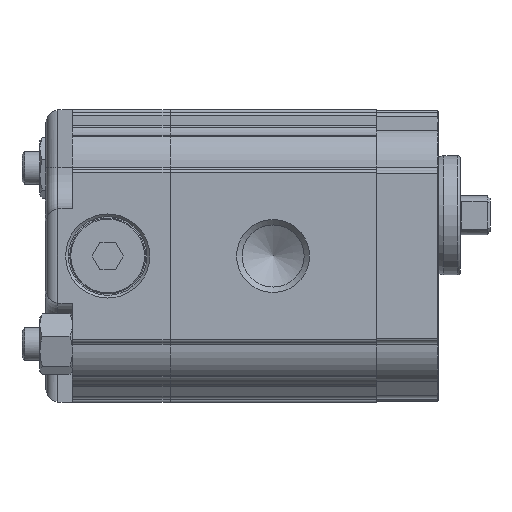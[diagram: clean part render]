
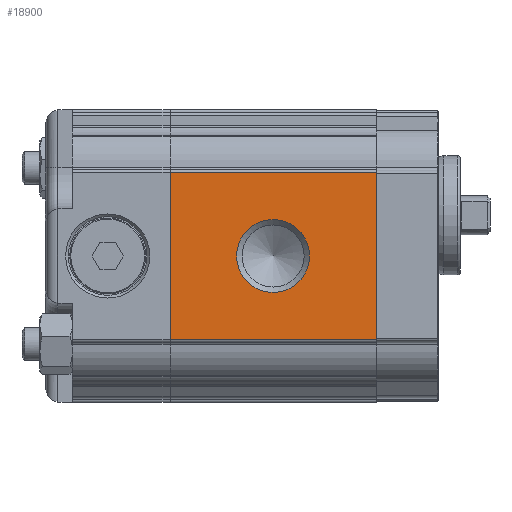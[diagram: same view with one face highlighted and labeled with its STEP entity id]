
A CAD part, left-side view. The second image highlights one B-rep face of the part: STEP entity #18900.
In plain terms, the highlighted planar face has unit normal (-1, 0, 0).
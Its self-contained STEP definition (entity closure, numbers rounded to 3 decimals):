
#1234=LINE('',#27752,#2253);
#1235=LINE('',#27756,#2254);
#1236=LINE('',#27758,#2255);
#1237=LINE('',#27760,#2256);
#2253=VECTOR('',#23065,1000.);
#2254=VECTOR('',#23070,1000.);
#2255=VECTOR('',#23071,1000.);
#2256=VECTOR('',#23072,1000.);
#4794=ORIENTED_EDGE('',*,*,#7641,.T.);
#4795=ORIENTED_EDGE('',*,*,#7642,.F.);
#4796=ORIENTED_EDGE('',*,*,#7640,.F.);
#4797=ORIENTED_EDGE('',*,*,#7643,.T.);
#4798=ORIENTED_EDGE('',*,*,#7644,.T.);
#7640=EDGE_CURVE('',#9209,#9208,#1234,.T.);
#7641=EDGE_CURVE('',#9210,#9210,#10214,.F.);
#7642=EDGE_CURVE('',#9208,#9211,#1235,.T.);
#7643=EDGE_CURVE('',#9209,#9212,#1236,.T.);
#7644=EDGE_CURVE('',#9212,#9211,#1237,.T.);
#9208=VERTEX_POINT('',#27749);
#9209=VERTEX_POINT('',#27751);
#9210=VERTEX_POINT('',#27755);
#9211=VERTEX_POINT('',#27757);
#9212=VERTEX_POINT('',#27759);
#10214=CIRCLE('',#20141,6.723);
#11048=EDGE_LOOP('',(#4794));
#11049=EDGE_LOOP('',(#4795,#4796,#4797,#4798));
#12046=FACE_BOUND('',#11048,.T.);
#12047=FACE_BOUND('',#11049,.T.);
#12716=PLANE('',#20140);
#18900=ADVANCED_FACE('',(#12046,#12047),#12716,.T.);
#20140=AXIS2_PLACEMENT_3D('',#27753,#23066,#23067);
#20141=AXIS2_PLACEMENT_3D('',#27754,#23068,#23069);
#23065=DIRECTION('',(0.,-1.,0.));
#23066=DIRECTION('',(-1.,0.,0.));
#23067=DIRECTION('',(0.,0.,1.));
#23068=DIRECTION('',(-1.,0.,0.));
#23069=DIRECTION('',(0.,0.,1.));
#23070=DIRECTION('',(0.,0.,-1.));
#23071=DIRECTION('',(0.,0.,-1.));
#23072=DIRECTION('',(0.,-1.,0.));
#27749=CARTESIAN_POINT('',(-25.,0.,15.418));
#27751=CARTESIAN_POINT('',(-25.,38.,15.418));
#27752=CARTESIAN_POINT('',(-25.,38.,15.418));
#27753=CARTESIAN_POINT('',(-25.,38.,15.418));
#27754=CARTESIAN_POINT('',(-25.,19.,0.));
#27755=CARTESIAN_POINT('',(-25.,19.,6.723));
#27756=CARTESIAN_POINT('',(-25.,0.,15.418));
#27757=CARTESIAN_POINT('',(-25.,0.,-15.418));
#27758=CARTESIAN_POINT('',(-25.,38.,15.418));
#27759=CARTESIAN_POINT('',(-25.,38.,-15.418));
#27760=CARTESIAN_POINT('',(-25.,38.,-15.418));
